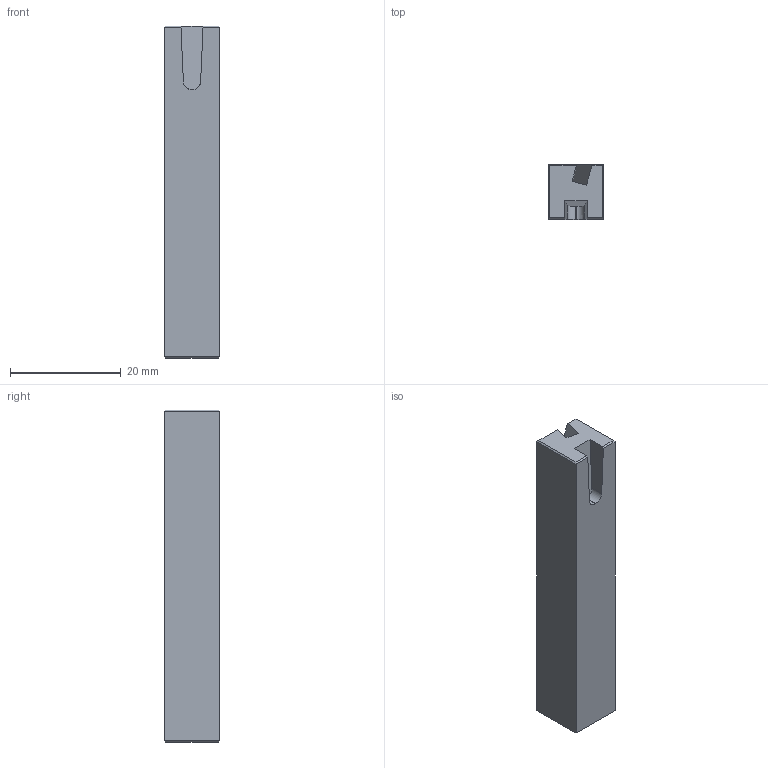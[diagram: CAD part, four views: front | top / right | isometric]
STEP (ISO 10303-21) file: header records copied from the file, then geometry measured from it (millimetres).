
FILE_DESCRIPTION (( 'STEP AP203' ), '1' );
FILE_NAME ('SQ-P10.60.1-2.STEP', '2021-09-08T12:36:53', ( '' ), ( '' ), 'SwSTEP 2.0', 'SolidWorks 2014', '' );
FILE_SCHEMA (( 'CONFIG_CONTROL_DESIGN' ));
Length unit declared in the file: millimetre
Products named in the file (1): SQ-P10.60.1-2
Bounding box: 10 x 10 x 60 mm (x, y, z)
Volume: 5094.6 mm3; surface area: 3274.6 mm2
Topology: 1 solids, 1 shells, 32 faces, 80 edges, 49 vertices
Faces by surface type: plane 24, cylinder 6, cone 2
Entity records: 999 total; most frequent: CARTESIAN_POINT 184, ORIENTED_EDGE 156, DIRECTION 144, EDGE_CURVE 78, LINE 62, VECTOR 62, VERTEX_POINT 49, AXIS2_PLACEMENT_3D 41
